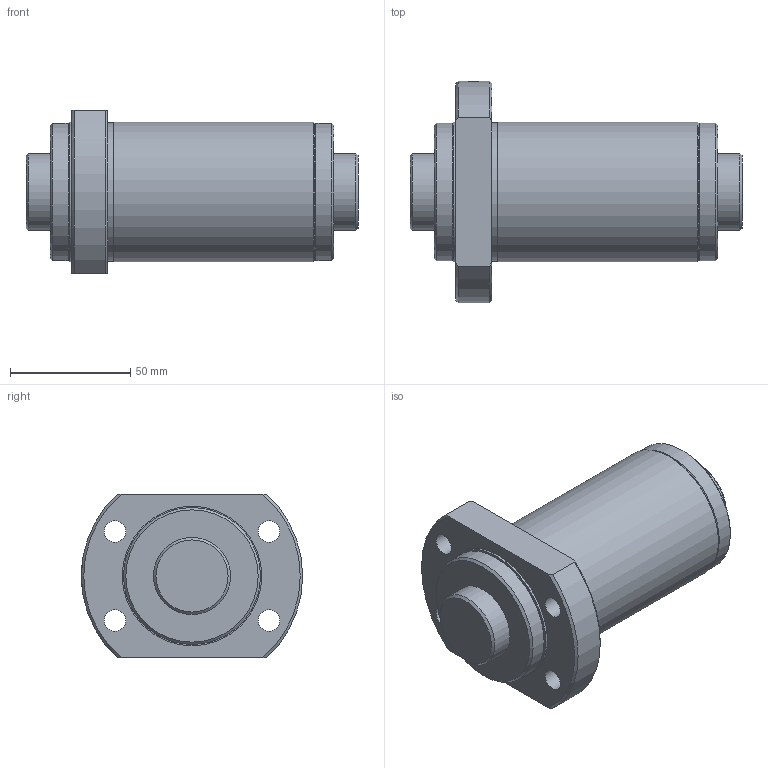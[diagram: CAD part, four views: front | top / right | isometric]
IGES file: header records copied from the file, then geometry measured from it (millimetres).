
Start section: Data from Parasolid IGES Translator 26.0.171, Copyright(c) 2006 Siemens PLM Software. All Rights Reserved.
Global section: file name: SBK3232-5.6RRG0+138LC0(0000).igs; native system: By Siemens PLM Incorporated; preprocessor: XPlus GENERIC/IGES 26.0.171; author: Noname; organization: Noname; date: 20240528.112003; units: millimetre
Bounding box: 138 x 92 x 68 mm (x, y, z)
Surface area: 61110.6 mm2 (no closed solid volume)
Topology: 0 solids, 0 shells, 38 faces, 173 edges, 148 vertices
Faces by surface type: revolution 27, extrusion 11
